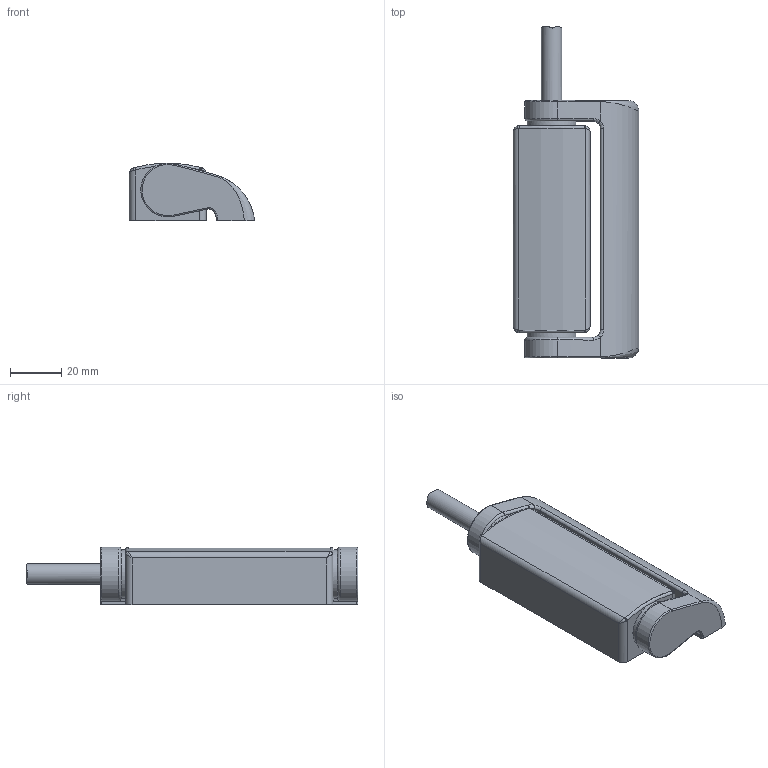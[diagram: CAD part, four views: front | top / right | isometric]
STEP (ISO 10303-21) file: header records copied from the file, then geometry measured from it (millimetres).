
FILE_DESCRIPTION((''),'2;1');
FILE_NAME('M:\INVENTORjob\Konstruktion\Sicherheitsschalter\ipt iam Modelle\neu\fertig für STEP\63000402_S400-M4CB2-T.stp','2010-01-20T10:44:34',('atull'),(''),'Autodesk Inventor 2008','Autodesk Inventor 2008','');
FILE_SCHEMA(('AUTOMOTIVE_DESIGN { 1 0 10303 214 1 1 1 1 }'));
Length unit declared in the file: millimetre
Products named in the file (1): 63000402_S400-M4CB2-T___1
Bounding box: 49 x 129.72 x 22.49 mm (x, y, z)
Volume: 81360.8 mm3; surface area: 18569.9 mm2
Topology: 1 solids, 1 shells, 94 faces, 238 edges, 139 vertices
Faces by surface type: cylinder 36, bspline 21, torus 18, plane 13, cone 6
Full cylindrical faces by diameter (mm): 4.2 x4, 4.65 x2, 8 x1, 19 x2
Entity records: 4228 total; most frequent: CARTESIAN_POINT 2109, DIRECTION 418, ORIENTED_EDGE 406, EDGE_CURVE 203, AXIS2_PLACEMENT_3D 183, VERTEX_POINT 125, EDGE_LOOP 110, CIRCLE 109
